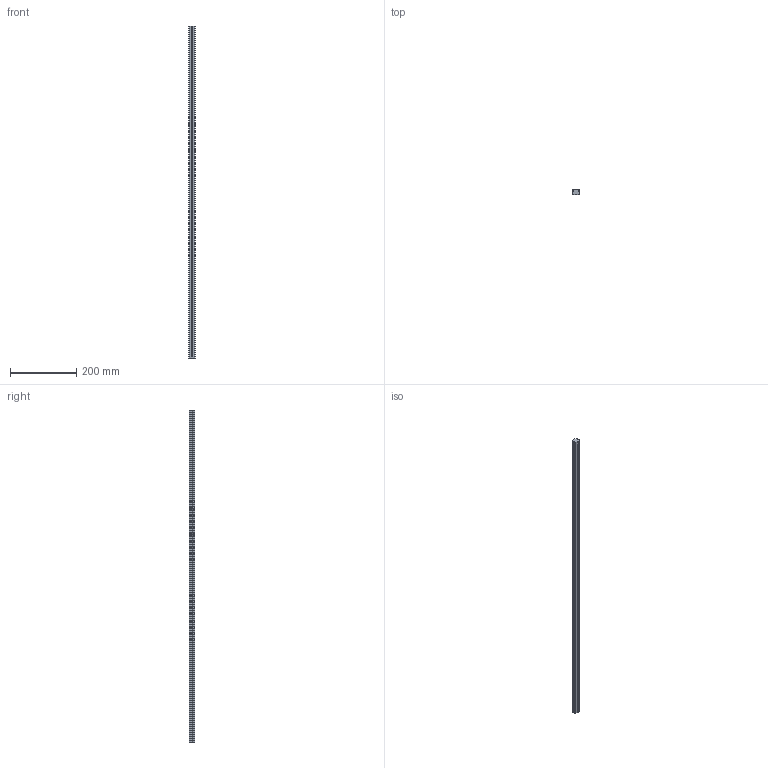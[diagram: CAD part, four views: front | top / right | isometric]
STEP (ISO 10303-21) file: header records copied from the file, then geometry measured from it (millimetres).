
FILE_DESCRIPTION (( 'STEP AP214' ), '1' );
FILE_NAME ('2.0010 Lineaarijohde EGR20U.STEP', '2024-04-22T08:03:04', ( '' ), ( '' ), 'SwSTEP 2.0', 'SolidWorks 2024', '' );
FILE_SCHEMA (( 'AUTOMOTIVE_DESIGN' ));
Length unit declared in the file: millimetre
Products named in the file (1): 2.0010 Lineaarijohde EGR20U
Bounding box: 20 x 15.5 x 1000 mm (x, y, z)
Volume: 265874.9 mm3; surface area: 78830.8 mm2
Topology: 1 solids, 1 shells, 172 faces, 476 edges, 306 vertices
Faces by surface type: plane 90, cylinder 82
Entity records: 5617 total; most frequent: CARTESIAN_POINT 1159, DIRECTION 952, ORIENTED_EDGE 952, EDGE_CURVE 476, AXIS2_PLACEMENT_3D 371, VERTEX_POINT 306, VECTOR 210, LINE 210
